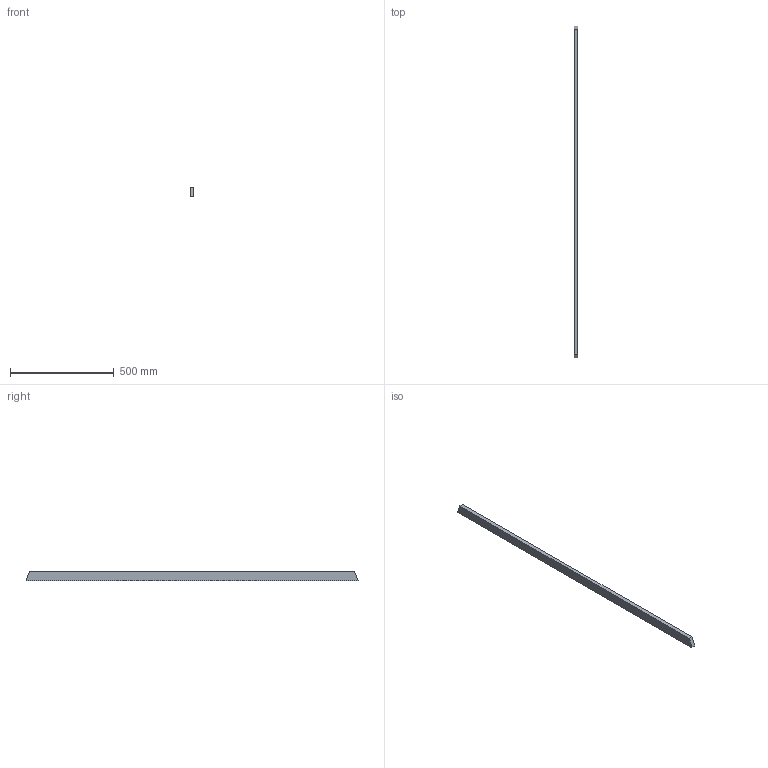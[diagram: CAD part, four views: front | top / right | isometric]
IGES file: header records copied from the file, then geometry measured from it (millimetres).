
Start section:  PTC IGES file: C:\Documents and Settings\Brad\Desktop\LABsub_CAD\mouth_ front_brace.igs
Global section: file name: C:\Documents and Settings\Brad\Desktop\LABsub_CAD\mouth_front_brace.igs; native system: Brad by Parametric Technology Corporation; preprocessor: 2003250; author: Unknown; organization: PTC; date: 040522.160822; units: inch
Bounding box: 19.05 x 1597.94 x 44.87 mm (x, y, z)
Volume: 1351996 mm3; surface area: 204020.4 mm2
Topology: 1 solids, 1 shells, 6 faces, 12 edges, 8 vertices
Faces by surface type: bspline 6
